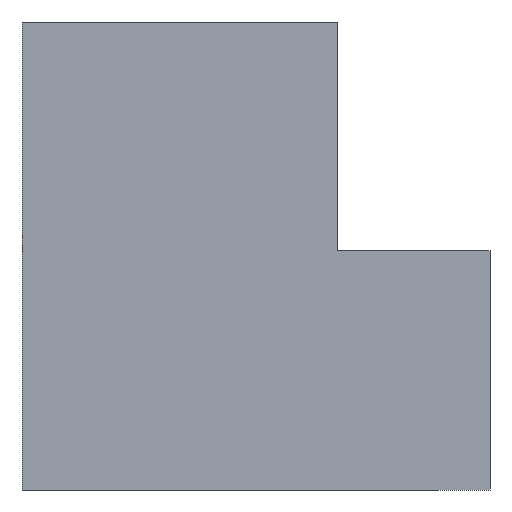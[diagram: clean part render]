
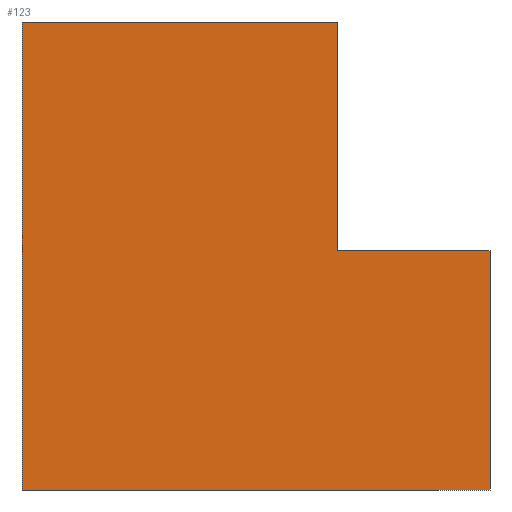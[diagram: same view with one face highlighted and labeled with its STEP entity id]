
A CAD part, left-side view. The second image highlights one B-rep face of the part: STEP entity #123.
In plain terms, the highlighted planar face has unit normal (-1, 0, 0).
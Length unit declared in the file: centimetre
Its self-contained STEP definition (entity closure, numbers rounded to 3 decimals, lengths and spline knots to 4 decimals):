
#4 = LINE ( 'NONE', #271, #57 ) ;
#13 = EDGE_CURVE ( 'NONE', #206, #394, #21, .T. ) ;
#17 = EDGE_LOOP ( 'NONE', ( #469, #98, #237, #94, #361, #349 ) ) ;
#21 = LINE ( 'NONE', #439, #174 ) ;
#22 = DIRECTION ( 'NONE',  ( 0., -1., 0. ) ) ;
#27 = CARTESIAN_POINT ( 'NONE',  ( 0., 0., 1000. ) ) ;
#47 = CARTESIAN_POINT ( 'NONE',  ( 0., 1000., 1000. ) ) ;
#49 = EDGE_CURVE ( 'NONE', #394, #396, #177, .T. ) ;
#57 = VECTOR ( 'NONE', #156, 100. ) ;
#64 = CARTESIAN_POINT ( 'NONE',  ( 0., 0., 0. ) ) ;
#69 = CARTESIAN_POINT ( 'NONE',  ( 0., 326.5282, 510.9604 ) ) ;
#84 = VERTEX_POINT ( 'NONE', #69 ) ;
#94 = ORIENTED_EDGE ( 'NONE', *, *, #240, .F. ) ;
#98 = ORIENTED_EDGE ( 'NONE', *, *, #293, .F. ) ;
#117 = DIRECTION ( 'NONE',  ( 0., -1., 0. ) ) ;
#123 = ADVANCED_FACE ( 'NONE', ( #182 ), #456, .F. ) ;
#125 = LINE ( 'NONE', #393, #200 ) ;
#139 = CARTESIAN_POINT ( 'NONE',  ( 0., 1000., 0. ) ) ;
#142 = LINE ( 'NONE', #27, #148 ) ;
#148 = VECTOR ( 'NONE', #178, 100. ) ;
#156 = DIRECTION ( 'NONE',  ( 0., 0., -1. ) ) ;
#171 = CARTESIAN_POINT ( 'NONE',  ( 0., 0., 510.9604 ) ) ;
#174 = VECTOR ( 'NONE', #484, 100. ) ;
#177 = LINE ( 'NONE', #139, #212 ) ;
#178 = DIRECTION ( 'NONE',  ( 0., 0., -1. ) ) ;
#182 = FACE_OUTER_BOUND ( 'NONE', #17, .T. ) ;
#189 = CARTESIAN_POINT ( 'NONE',  ( 0., 1000., 1000. ) ) ;
#200 = VECTOR ( 'NONE', #117, 100. ) ;
#206 = VERTEX_POINT ( 'NONE', #47 ) ;
#212 = VECTOR ( 'NONE', #22, 100. ) ;
#237 = ORIENTED_EDGE ( 'NONE', *, *, #312, .F. ) ;
#238 = VECTOR ( 'NONE', #390, 100. ) ;
#240 = EDGE_CURVE ( 'NONE', #206, #316, #310, .T. ) ;
#257 = DIRECTION ( 'NONE',  ( 1., 0., 0. ) ) ;
#258 = CARTESIAN_POINT ( 'NONE',  ( 0., 1000., 0. ) ) ;
#271 = CARTESIAN_POINT ( 'NONE',  ( 0., 326.5282, 510.9604 ) ) ;
#289 = AXIS2_PLACEMENT_3D ( 'NONE', #189, #257, #344 ) ;
#293 = EDGE_CURVE ( 'NONE', #84, #366, #125, .T. ) ;
#310 = LINE ( 'NONE', #428, #238 ) ;
#312 = EDGE_CURVE ( 'NONE', #316, #84, #4, .T. ) ;
#316 = VERTEX_POINT ( 'NONE', #463 ) ;
#344 = DIRECTION ( 'NONE',  ( 0., 0., -1. ) ) ;
#349 = ORIENTED_EDGE ( 'NONE', *, *, #49, .T. ) ;
#361 = ORIENTED_EDGE ( 'NONE', *, *, #13, .T. ) ;
#366 = VERTEX_POINT ( 'NONE', #171 ) ;
#390 = DIRECTION ( 'NONE',  ( 0., -1., 0. ) ) ;
#393 = CARTESIAN_POINT ( 'NONE',  ( 0., 0., 510.9604 ) ) ;
#394 = VERTEX_POINT ( 'NONE', #258 ) ;
#396 = VERTEX_POINT ( 'NONE', #64 ) ;
#428 = CARTESIAN_POINT ( 'NONE',  ( 0., 1000., 1000. ) ) ;
#439 = CARTESIAN_POINT ( 'NONE',  ( 0., 1000., 1000. ) ) ;
#456 = PLANE ( 'NONE',  #289 ) ;
#463 = CARTESIAN_POINT ( 'NONE',  ( 0., 326.5282, 1000. ) ) ;
#469 = ORIENTED_EDGE ( 'NONE', *, *, #478, .F. ) ;
#478 = EDGE_CURVE ( 'NONE', #366, #396, #142, .T. ) ;
#484 = DIRECTION ( 'NONE',  ( 0., 0., -1. ) ) ;
